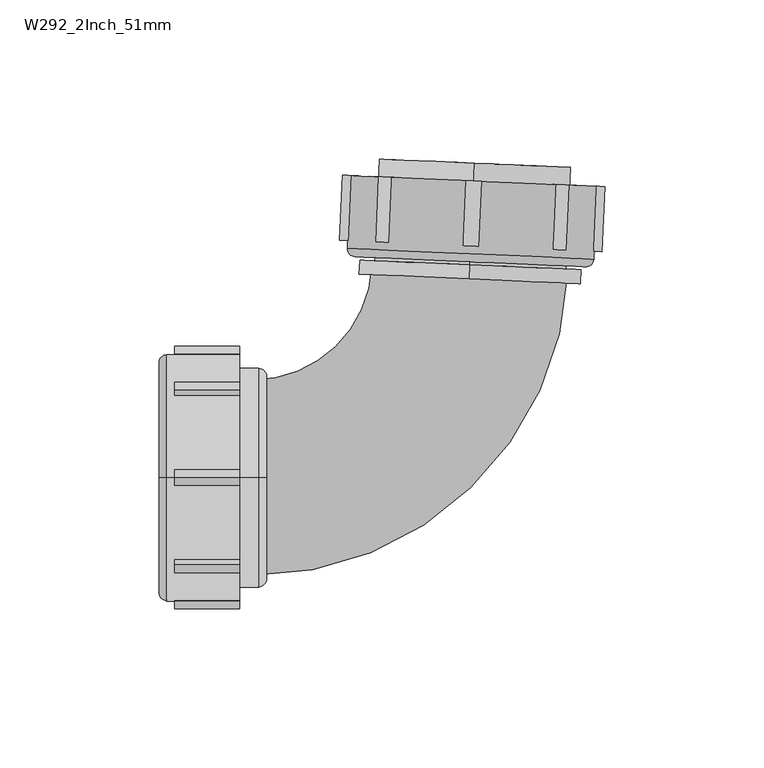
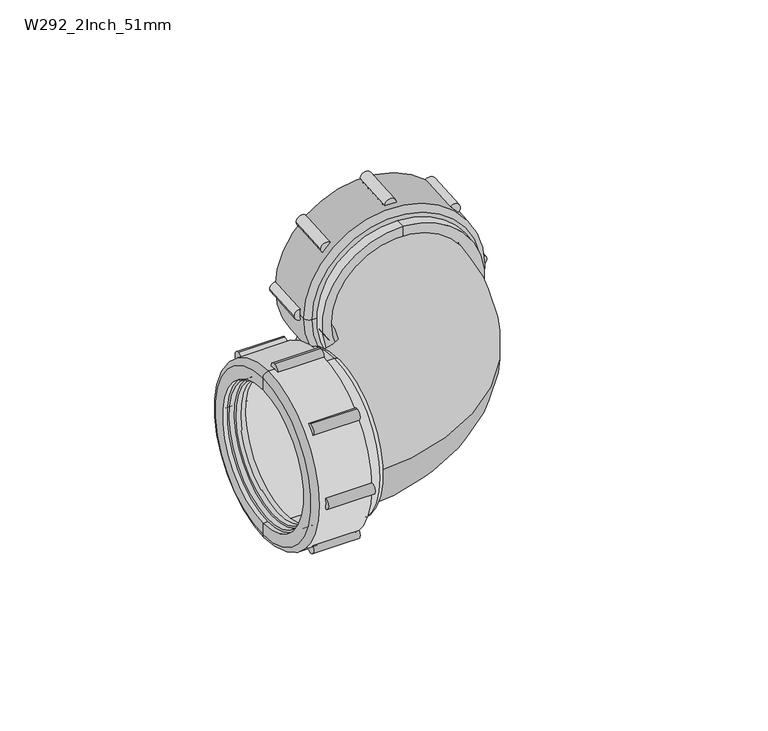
"""IFC4 building model written with IfcOpenShell, lengths in millimetres: pipe fitting geometry, Durapipe_PipeFitting_VulcatheneMechanical_92.5LooseNutSweepBend_W29 : W292_2Inch_51mm."""

from ifc_helpers import new_model, si_unit, point, frame, frame_2d, origin, place, context, project, spatial, polyline, circle_curve, ellipse_curve, trimmed, segment, composite_curve, outline, extrude, source, transform, mapped, element, save
from ifc_brep_helpers import plane_surface, cylinder_surface, revolved_surface, advanced_brep


def w292_2inch_51mm_7eba3630(model_context):
    return source(origin(), model_context, "Body", "SolidModel", [
        advanced_brep(
        [(-19.6834015, 72.7860232, 22.839549), (-18.1292472, 72.7181674, 21.2839141), (24.3980659, 70.8613848, -21.2839141), (25.9522202, 70.793529, -22.839549), (-18.9446293, 78.3591028, 22.3445743), (25.7019851, 76.4097895, -22.3445743), (-18.4597019, 79.7392642, 21.9203102), (-18.5207691, 78.3405966, 21.9203102), (25.2781248, 76.4282956, -21.9203102), (25.339192, 77.8269631, -21.9203102), (24.3501847, 77.8701441, -20.9303607), (-17.4706946, 79.6960832, 20.9303607), (24.2498601, 75.5723332, -20.9303607), (-17.5710192, 77.3982723, 20.9303607), (23.9672866, 75.5846707, -20.647518), (-17.2884457, 77.3859348, 20.647518), (-18.0201988, 75.2157879, 21.2839141), (-17.3844084, 75.1880287, 20.647518), (23.8713239, 73.3867646, -20.647518), (24.5071143, 73.3590054, -21.2839141)],
        [
            (0, 1),
            (1, 2, circle_curve(frame((3.1344093, 71.7897761, 0.0), z_axis=(0.04361938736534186, 0.9990482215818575, 0.0), x_axis=(0.7064337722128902, -0.030843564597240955, -0.7071067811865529)), 30.1)),
            (2, 3),
            (3, 0, circle_curve(frame((3.1344093, 71.7897761, 0.0), z_axis=(-0.04361938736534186, -0.9990482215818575, 0.0), x_axis=(0.7064337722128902, -0.030843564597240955, -0.7071067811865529)), 32.3)),
            (2, 1, circle_curve(frame((3.1344093, 71.7897761, 0.0), z_axis=(0.04361938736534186, 0.9990482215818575, 0.0), x_axis=(0.7064337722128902, -0.030843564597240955, -0.7071067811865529)), 30.1)),
            (0, 3, circle_curve(frame((3.1344093, 71.7897761, 0.0), z_axis=(-0.04361938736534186, -0.9990482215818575, 0.0), x_axis=(0.7064337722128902, -0.030843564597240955, -0.7071067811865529)), 32.3)),
            (4, 0),
            (3, 5),
            (5, 4, circle_curve(frame((3.3786779, 77.3844461, 0.0), z_axis=(-0.04361938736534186, -0.9990482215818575, 0.0), x_axis=(0.7064337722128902, -0.030843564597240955, -0.7071067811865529)), 31.6)),
            (4, 5, circle_curve(frame((3.3786779, 77.3844461, 0.0), z_axis=(-0.04361938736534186, -0.9990482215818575, 0.0), x_axis=(0.7064337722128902, -0.030843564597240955, -0.7071067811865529)), 31.6)),
            (6, 7),
            (7, 8, circle_curve(frame((3.3786779, 77.3844461, 0.0), z_axis=(0.04361938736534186, 0.9990482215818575, 0.0), x_axis=(0.7064337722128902, -0.030843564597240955, -0.7071067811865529)), 31.0)),
            (8, 9),
            (9, 6, circle_curve(frame((3.439745, 78.7831137, 0.0), z_axis=(-0.04361938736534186, -0.9990482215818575, 0.0), x_axis=(0.7064337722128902, -0.030843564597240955, -0.7071067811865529)), 31.0)),
            (8, 7, circle_curve(frame((3.3786779, 77.3844461, 0.0), z_axis=(0.04361938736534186, 0.9990482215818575, 0.0), x_axis=(0.7064337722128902, -0.030843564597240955, -0.7071067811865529)), 31.0)),
            (6, 9, circle_curve(frame((3.439745, 78.7831137, 0.0), z_axis=(-0.04361938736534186, -0.9990482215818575, 0.0), x_axis=(0.7064337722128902, -0.030843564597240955, -0.7071067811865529)), 31.0)),
            (9, 10),
            (10, 11, circle_curve(frame((3.439745, 78.7831137, 0.0), z_axis=(-0.04361938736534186, -0.9990482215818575, 0.0), x_axis=(0.7064337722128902, -0.030843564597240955, -0.7071067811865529)), 29.6)),
            (11, 6),
            (11, 10, circle_curve(frame((3.439745, 78.7831137, 0.0), z_axis=(-0.04361938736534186, -0.9990482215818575, 0.0), x_axis=(0.7064337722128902, -0.030843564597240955, -0.7071067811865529)), 29.6)),
            (10, 12),
            (12, 13, circle_curve(frame((3.3394204, 76.4853027, 0.0), z_axis=(-0.04361938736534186, -0.9990482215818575, 0.0), x_axis=(0.7064337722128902, -0.030843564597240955, -0.7071067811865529)), 29.6)),
            (13, 11),
            (13, 12, circle_curve(frame((3.3394204, 76.4853027, 0.0), z_axis=(-0.04361938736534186, -0.9990482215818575, 0.0), x_axis=(0.7064337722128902, -0.030843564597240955, -0.7071067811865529)), 29.6)),
            (12, 14),
            (14, 15, circle_curve(frame((3.3394204, 76.4853027, 0.0), z_axis=(-0.04361938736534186, -0.9990482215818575, 0.0), x_axis=(0.7064337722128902, -0.030843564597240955, -0.7071067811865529)), 29.2)),
            (15, 13),
            (15, 14, circle_curve(frame((3.3394204, 76.4853027, 0.0), z_axis=(-0.04361938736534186, -0.9990482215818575, 0.0), x_axis=(0.7064337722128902, -0.030843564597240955, -0.7071067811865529)), 29.2)),
            (16, 17),
            (17, 18, circle_curve(frame((3.2434578, 74.2873967, 0.0), z_axis=(0.04361938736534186, 0.9990482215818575, 0.0), x_axis=(0.7064337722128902, -0.030843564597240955, -0.7071067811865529)), 29.2)),
            (18, 19),
            (19, 16, circle_curve(frame((3.2434578, 74.2873967, 0.0), z_axis=(-0.04361938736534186, -0.9990482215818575, 0.0), x_axis=(0.7064337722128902, -0.030843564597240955, -0.7071067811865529)), 30.1)),
            (18, 17, circle_curve(frame((3.2434578, 74.2873967, 0.0), z_axis=(0.04361938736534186, 0.9990482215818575, 0.0), x_axis=(0.7064337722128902, -0.030843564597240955, -0.7071067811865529)), 29.2)),
            (16, 19, circle_curve(frame((3.2434578, 74.2873967, 0.0), z_axis=(-0.04361938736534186, -0.9990482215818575, 0.0), x_axis=(0.7064337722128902, -0.030843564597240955, -0.7071067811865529)), 30.1)),
            (1, 16),
            (19, 2),
            (14, 18),
            (17, 15),
            (5, 8),
            (7, 4),
        ],
        [
            plane_surface(frame((3.1344093, 71.7897761, 0.0), z_axis=(-0.04361938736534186, -0.9990482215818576, 0.0), x_axis=(0.7064337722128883, -0.030843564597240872, -0.707106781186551))),
            revolved_surface(polyline([(25.9522202, 70.793529, -22.839549), (25.7019851, 76.4097895, -22.3445743)]), (2.9163124, 66.794535, 0.0), (0.04361938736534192, 0.9990482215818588, 0.0)),
            cylinder_surface(frame((3.5300658, 80.8517986, 0.0), z_axis=(0.04361938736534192, 0.9990482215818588, 0.0), x_axis=(0.7064337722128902, -0.030843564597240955, -0.7071067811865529)), 31.0),
            plane_surface(frame((3.439745, 78.7831137, 0.0), z_axis=(0.04361938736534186, 0.9990482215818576, 0.0), x_axis=(0.7064337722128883, -0.030843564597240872, -0.707106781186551))),
            revolved_surface(polyline([(24.35018473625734, 77.87014418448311, -20.930360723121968), (24.249860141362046, 75.57233318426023, -20.930360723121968)]), (3.5921072, 82.27278, 0.0), (0.04361938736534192, 0.9990482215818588, 0.0)),
            plane_surface(frame((3.3394204, 76.4853027, 0.0), z_axis=(0.04361938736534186, 0.9990482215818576, 0.0), x_axis=(0.7064337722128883, -0.030843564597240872, -0.707106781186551))),
            plane_surface(frame((3.2434578, 74.2873967, 0.0), z_axis=(-0.04361938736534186, -0.9990482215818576, 0.0), x_axis=(0.7064337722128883, -0.030843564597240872, -0.707106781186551))),
            revolved_surface(polyline([(24.507114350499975, 73.35900540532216, -21.283914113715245), (24.39806587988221, 70.86138480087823, -21.283914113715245)]), (2.9163124, 66.794535, 0.0), (0.04361938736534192, 0.9990482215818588, 0.0)),
            revolved_surface(polyline([(23.96728662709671, 75.58467069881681, -20.647518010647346), (23.871323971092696, 73.3867645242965, -20.647518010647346)]), (3.066093, 70.2250743, 0.0), (0.04361938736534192, 0.9990482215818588, 0.0)),
            plane_surface(frame((3.3786779, 77.3844461, 0.0), z_axis=(0.04361938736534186, 0.9990482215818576, 0.0), x_axis=(0.7064337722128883, -0.030843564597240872, -0.707106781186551))),
        ],
        [
            (0, [[1, 2, 3, 4]]),
            (0, [[5, -1, 6, -3]]),
            (1, [[7, -4, 8, 9]]),
            (1, [[-8, -6, -7, 10]]),
            (2, [[11, 12, 13, 14]]),
            (2, [[15, -11, 16, -13]]),
            (3, [[17, 18, 19, -14]]),
            (3, [[-19, 20, -17, -16]]),
            (4, [[-18, 21, 22, 23]]),
            (4, [[24, -21, -20, -23]]),
            (5, [[25, 26, 27, -22]]),
            (5, [[-27, 28, -25, -24]]),
            (6, [[29, 30, 31, 32]]),
            (6, [[-31, 33, -29, 34]]),
            (7, [[35, -32, 36, -2]]),
            (7, [[-36, -34, -35, -5]]),
            (8, [[-26, 37, -30, 38]]),
            (8, [[-33, -37, -28, -38]]),
            (9, [[39, -12, 40, -9]]),
            (9, [[-40, -15, -39, -10]]),
        ],
    ),
        advanced_brep(
        [(-34.6908449, 94.9617451, 0.0), (-35.6897288, 72.0835408, 0.0), (41.8364132, 68.6986764, 0.0), (42.8352971, 91.5768806, 0.0), (-28.8963652, 94.7087526, 0.0), (37.0408175, 91.8298731, 0.0), (-33.3011567, 69.4768718, 0.0), (-28.0062012, 69.245689, 0.0), (33.9347886, 66.541287, 0.0), (39.2297441, 66.3101043, 0.0), (-29.834182, 73.2292159, 0.0), (36.1030006, 70.3503363, 0.0), (-27.8360856, 73.1419771, 0.0), (34.1049042, 70.4375751, 0.0)],
        [
            (0, 1),
            (1, 2, circle_curve(frame((3.0733422, 70.3911086, 0.0), z_axis=(0.0436193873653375, 0.9990482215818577, 0.0), x_axis=(0.9990482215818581, -0.04361938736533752, 0.0)), 38.8)),
            (2, 3),
            (3, 0, circle_curve(frame((4.0722261, 93.2693129, 0.0), z_axis=(-0.0436193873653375, -0.9990482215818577, 0.0), x_axis=(0.9990482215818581, -0.04361938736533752, 0.0)), 38.8)),
            (2, 1, circle_curve(frame((3.0733422, 70.3911086, 0.0), z_axis=(0.0436193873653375, 0.9990482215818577, 0.0), x_axis=(0.9990482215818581, -0.04361938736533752, 0.0)), 38.8)),
            (0, 3, circle_curve(frame((4.0722261, 93.2693129, 0.0), z_axis=(-0.0436193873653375, -0.9990482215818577, 0.0), x_axis=(0.9990482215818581, -0.04361938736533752, 0.0)), 38.8)),
            (4, 0),
            (3, 5),
            (5, 4, circle_curve(frame((4.0722261, 93.2693129, 0.0), z_axis=(-0.0436193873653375, -0.9990482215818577, 0.0), x_axis=(0.9990482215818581, -0.04361938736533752, 0.0)), 33.0)),
            (4, 5, circle_curve(frame((4.0722261, 93.2693129, 0.0), z_axis=(-0.0436193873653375, -0.9990482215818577, 0.0), x_axis=(0.9990482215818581, -0.04361938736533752, 0.0)), 33.0)),
            (6, 7),
            (7, 8, circle_curve(frame((2.9642937, 67.893488, 0.0), z_axis=(0.0436193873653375, 0.9990482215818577, 0.0), x_axis=(0.9990482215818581, -0.04361938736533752, 0.0)), 31.0)),
            (8, 9),
            (9, 6, circle_curve(frame((2.9642937, 67.893488, 0.0), z_axis=(-0.0436193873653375, -0.9990482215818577, 0.0), x_axis=(0.9990482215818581, -0.04361938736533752, 0.0)), 36.3)),
            (8, 7, circle_curve(frame((2.9642937, 67.893488, 0.0), z_axis=(0.0436193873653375, 0.9990482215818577, 0.0), x_axis=(0.9990482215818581, -0.04361938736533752, 0.0)), 31.0)),
            (6, 9, circle_curve(frame((2.9642937, 67.893488, 0.0), z_axis=(-0.0436193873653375, -0.9990482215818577, 0.0), x_axis=(0.9990482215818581, -0.04361938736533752, 0.0)), 36.3)),
            (1, 6, circle_curve(frame((-33.1921083, 71.9744924, 0.0), z_axis=(0.0, 0.0, 1.0000000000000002), x_axis=(-0.043619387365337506, -0.9990482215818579, 0.0)), 2.5)),
            (9, 2, circle_curve(frame((39.3387926, 68.8077248, 0.0), z_axis=(0.0, 0.0, 1.0000000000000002), x_axis=(-0.043619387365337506, -0.9990482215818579, 0.0)), 2.5)),
            (10, 4),
            (5, 11),
            (11, 10, circle_curve(frame((3.1344093, 71.7897761, 0.0), z_axis=(-0.0436193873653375, -0.9990482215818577, 0.0), x_axis=(0.9990482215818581, -0.04361938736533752, 0.0)), 33.0)),
            (10, 11, circle_curve(frame((3.1344093, 71.7897761, 0.0), z_axis=(-0.0436193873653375, -0.9990482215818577, 0.0), x_axis=(0.9990482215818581, -0.04361938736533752, 0.0)), 33.0)),
            (12, 10),
            (11, 13),
            (13, 12, circle_curve(frame((3.1344093, 71.7897761, 0.0), z_axis=(-0.0436193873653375, -0.9990482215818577, 0.0), x_axis=(0.9990482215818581, -0.04361938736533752, 0.0)), 31.0)),
            (12, 13, circle_curve(frame((3.1344093, 71.7897761, 0.0), z_axis=(-0.0436193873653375, -0.9990482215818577, 0.0), x_axis=(0.9990482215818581, -0.04361938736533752, 0.0)), 31.0)),
            (7, 12),
            (13, 8),
        ],
        [
            cylinder_surface(frame((-65.1169254, -1491.4227929, 0.0), z_axis=(0.043619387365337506, 0.9990482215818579, 0.0), x_axis=(0.9990482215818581, -0.04361938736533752, 0.0)), 38.8),
            plane_surface(frame((4.0722261, 93.2693129, 0.0), z_axis=(0.0436193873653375, 0.9990482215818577, 0.0), x_axis=(0.9990482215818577, -0.0436193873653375, 0.0))),
            plane_surface(frame((2.9642937, 67.893488, 0.0), z_axis=(-0.0436193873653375, -0.9990482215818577, 0.0), x_axis=(0.9990482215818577, -0.0436193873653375, 0.0))),
            revolved_surface(trimmed(ellipse_curve(frame((39.3387926, 68.8077248, 0.0), z_axis=(0.0, 0.0, 1.0000000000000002), x_axis=(-0.043619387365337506, -0.9990482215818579, 0.0)), 2.5, 2.5), [point((39.2297441, 66.3101043, 0.0))], [point((41.8364132, 68.6986764, 0.0))], True, "CARTESIAN"), (-65.1169254, -1491.4227929, 0.0), (0.043619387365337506, 0.9990482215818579, 0.0)),
            revolved_surface(polyline([(37.040817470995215, 91.8298731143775, 0.0), (36.103000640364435, 70.35033629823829, 0.0)]), (-65.1169254, -1491.4227929, 0.0), (0.043619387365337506, 0.9990482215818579, 0.0)),
            plane_surface(frame((3.1344093, 71.7897761, 0.0), z_axis=(0.0436193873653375, 0.9990482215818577, 0.0), x_axis=(0.9990482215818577, -0.0436193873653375, 0.0))),
            revolved_surface(polyline([(34.10490419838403, 70.43757510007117, 0.0), (33.93478858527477, 66.54128698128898, 0.0)]), (-65.1169254, -1491.4227929, 0.0), (0.043619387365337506, 0.9990482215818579, 0.0)),
        ],
        [
            (0, [[1, 2, 3, 4]]),
            (0, [[-3, 5, -1, 6]]),
            (1, [[7, -4, 8, 9]]),
            (1, [[-8, -6, -7, 10]]),
            (2, [[11, 12, 13, 14]]),
            (2, [[-13, 15, -11, 16]]),
            (3, [[17, -14, 18, -2]]),
            (3, [[-18, -16, -17, -5]]),
            (4, [[19, -9, 20, 21]]),
            (4, [[-20, -10, -19, 22]]),
            (5, [[23, -21, 24, 25]]),
            (5, [[-24, -22, -23, 26]]),
            (6, [[27, -25, 28, -12]]),
            (6, [[-28, -26, -27, -15]]),
        ],
    ),
        extrude(outline(composite_curve([segment(trimmed(circle_curve(frame_2d((0.0, 2.5)), 2.5), [point((0.0, 5.0))], [point((0.0, 0.0))], False, "CARTESIAN"), True, "CONTINUOUS"), segment(trimmed(circle_curve(frame_2d((0.0, 2.5)), 2.5), [point((0.0, 0.0))], [point((0.0, 5.0))], False, "CARTESIAN"), True, "CONTINUOUS")], self_intersect=False)), frame((5.6800112, 72.7796807, -38.8), z_axis=(0.0436193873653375, 0.9990482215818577, 0.0), x_axis=(0.0, 0.0, -1.0)), (0.0, 0.0, 1.0), 20.4),
        extrude(outline(composite_curve([segment(trimmed(circle_curve(frame_2d((-11.3642569, -24.9357431)), 2.5), [point((-11.3642569, -22.4357431))], [point((-11.3642569, -27.4357431))], False, "CARTESIAN"), True, "CONTINUOUS"), segment(trimmed(circle_curve(frame_2d((-11.3642569, -24.9357431)), 2.5), [point((-11.3642569, -27.4357431))], [point((-11.3642569, -22.4357431))], False, "CARTESIAN"), True, "CONTINUOUS")], self_intersect=False)), frame((5.6800112, 72.7796807, -38.8), z_axis=(0.0436193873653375, 0.9990482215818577, 0.0), x_axis=(0.0, 0.0, -1.0)), (0.0, 0.0, 1.0), 20.4),
        extrude(outline(composite_curve([segment(trimmed(circle_curve(frame_2d((-38.8, -36.3)), 2.5), [point((-38.8, -33.8))], [point((-38.8, -38.8))], False, "CARTESIAN"), True, "CONTINUOUS"), segment(trimmed(circle_curve(frame_2d((-38.8, -36.3)), 2.5), [point((-38.8, -38.8))], [point((-38.8, -33.8))], False, "CARTESIAN"), True, "CONTINUOUS")], self_intersect=False)), frame((5.6800112, 72.7796807, -38.8), z_axis=(0.0436193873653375, 0.9990482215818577, 0.0), x_axis=(0.0, 0.0, -1.0)), (0.0, 0.0, 1.0), 20.4),
        extrude(outline(composite_curve([segment(trimmed(circle_curve(frame_2d((-66.2357431, -24.9357431)), 2.5), [point((-66.2357431, -22.4357431))], [point((-66.2357431, -27.4357431))], False, "CARTESIAN"), True, "CONTINUOUS"), segment(trimmed(circle_curve(frame_2d((-66.2357431, -24.9357431)), 2.5), [point((-66.2357431, -27.4357431))], [point((-66.2357431, -22.4357431))], False, "CARTESIAN"), True, "CONTINUOUS")], self_intersect=False)), frame((5.6800112, 72.7796807, -38.8), z_axis=(0.0436193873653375, 0.9990482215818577, 0.0), x_axis=(0.0, 0.0, -1.0)), (0.0, 0.0, 1.0), 20.4),
        extrude(outline(composite_curve([segment(trimmed(circle_curve(frame_2d((-77.6, 2.5)), 2.5), [point((-77.6, 5.0))], [point((-77.6, 0.0))], False, "CARTESIAN"), True, "CONTINUOUS"), segment(trimmed(circle_curve(frame_2d((-77.6, 2.5)), 2.5), [point((-77.6, 0.0))], [point((-77.6, 5.0))], False, "CARTESIAN"), True, "CONTINUOUS")], self_intersect=False)), frame((5.6800112, 72.7796807, -38.8), z_axis=(0.0436193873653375, 0.9990482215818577, 0.0), x_axis=(0.0, 0.0, -1.0)), (0.0, 0.0, 1.0), 20.4),
        extrude(outline(composite_curve([segment(trimmed(circle_curve(frame_2d((-66.2357431, 29.9357431)), 2.5), [point((-66.2357431, 32.4357431))], [point((-66.2357431, 27.4357431))], False, "CARTESIAN"), True, "CONTINUOUS"), segment(trimmed(circle_curve(frame_2d((-66.2357431, 29.9357431)), 2.5), [point((-66.2357431, 27.4357431))], [point((-66.2357431, 32.4357431))], False, "CARTESIAN"), True, "CONTINUOUS")], self_intersect=False)), frame((5.6800112, 72.7796807, -38.8), z_axis=(0.0436193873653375, 0.9990482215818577, 0.0), x_axis=(0.0, 0.0, -1.0)), (0.0, 0.0, 1.0), 20.4),
        extrude(outline(composite_curve([segment(trimmed(circle_curve(frame_2d((-38.8, 41.3)), 2.5), [point((-38.8, 43.8))], [point((-38.8, 38.8))], False, "CARTESIAN"), True, "CONTINUOUS"), segment(trimmed(circle_curve(frame_2d((-38.8, 41.3)), 2.5), [point((-38.8, 38.8))], [point((-38.8, 43.8))], False, "CARTESIAN"), True, "CONTINUOUS")], self_intersect=False)), frame((5.6800112, 72.7796807, -38.8), z_axis=(0.0436193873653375, 0.9990482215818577, 0.0), x_axis=(0.0, 0.0, -1.0)), (0.0, 0.0, 1.0), 20.4),
        extrude(outline(composite_curve([segment(trimmed(circle_curve(frame_2d((-11.3642569, 29.9357431)), 2.5), [point((-11.3642569, 32.4357431))], [point((-11.3642569, 27.4357431))], False, "CARTESIAN"), True, "CONTINUOUS"), segment(trimmed(circle_curve(frame_2d((-11.3642569, 29.9357431)), 2.5), [point((-11.3642569, 27.4357431))], [point((-11.3642569, 32.4357431))], False, "CARTESIAN"), True, "CONTINUOUS")], self_intersect=False)), frame((5.6800112, 72.7796807, -38.8), z_axis=(0.0436193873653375, 0.9990482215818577, 0.0), x_axis=(0.0, 0.0, -1.0)), (0.0, 0.0, 1.0), 20.4),
        advanced_brep(
        [(4.3164947, 98.8639829, 30.15), (4.3164947, 98.8639829, -30.15), (4.3164947, 98.8639829, -26.2), (4.3164947, 98.8639829, 26.2), (2.9206743, 66.8944398, 30.15), (2.9206743, 66.8944398, -30.15), (2.9206743, 66.8944398, 34.9), (2.9206743, 66.8944398, -34.9), (2.728749, 62.4986276, 34.9), (2.728749, 62.4986276, -34.9), (2.728749, 62.4986276, 26.2), (2.728749, 62.4986276, -26.2)],
        [
            (0, 1, circle_curve(frame((4.3164947, 98.8639829, 0.0), z_axis=(0.04361938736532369, 0.9990482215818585, 0.0), x_axis=(0.0, 0.0, -1.0)), 30.15)),
            (1, 2),
            (2, 3, circle_curve(frame((4.3164947, 98.8639829, 0.0), z_axis=(-0.04361938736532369, -0.9990482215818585, 0.0), x_axis=(0.0, 0.0, -1.0)), 26.2)),
            (3, 0),
            (1, 0, circle_curve(frame((4.3164947, 98.8639829, 0.0), z_axis=(0.04361938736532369, 0.9990482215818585, 0.0), x_axis=(0.0, 0.0, -1.0)), 30.15)),
            (3, 2, circle_curve(frame((4.3164947, 98.8639829, 0.0), z_axis=(-0.04361938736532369, -0.9990482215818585, 0.0), x_axis=(0.0, 0.0, -1.0)), 26.2)),
            (4, 5, circle_curve(frame((2.9206743, 66.8944398, 0.0), z_axis=(0.04361938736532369, 0.9990482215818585, 0.0), x_axis=(0.0, 0.0, -1.0)), 30.15)),
            (5, 1),
            (0, 4),
            (5, 4, circle_curve(frame((2.9206743, 66.8944398, 0.0), z_axis=(0.04361938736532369, 0.9990482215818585, 0.0), x_axis=(0.0, 0.0, -1.0)), 30.15)),
            (6, 7, circle_curve(frame((2.9206743, 66.8944398, 0.0), z_axis=(0.04361938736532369, 0.9990482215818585, 0.0), x_axis=(0.0, 0.0, -1.0)), 34.9)),
            (7, 5),
            (4, 6),
            (7, 6, circle_curve(frame((2.9206743, 66.8944398, 0.0), z_axis=(0.04361938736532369, 0.9990482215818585, 0.0), x_axis=(0.0, 0.0, -1.0)), 34.9)),
            (8, 9, circle_curve(frame((2.728749, 62.4986276, 0.0), z_axis=(0.04361938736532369, 0.9990482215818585, 0.0), x_axis=(0.0, 0.0, -1.0)), 34.9)),
            (9, 7),
            (6, 8),
            (9, 8, circle_curve(frame((2.728749, 62.4986276, 0.0), z_axis=(0.04361938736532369, 0.9990482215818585, 0.0), x_axis=(0.0, 0.0, -1.0)), 34.9)),
            (10, 11, circle_curve(frame((2.728749, 62.4986276, 0.0), z_axis=(0.04361938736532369, 0.9990482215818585, 0.0), x_axis=(0.0, 0.0, -1.0)), 26.2)),
            (11, 9),
            (8, 10),
            (11, 10, circle_curve(frame((2.728749, 62.4986276, 0.0), z_axis=(0.04361938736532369, 0.9990482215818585, 0.0), x_axis=(0.0, 0.0, -1.0)), 26.2)),
            (2, 11),
            (10, 3),
        ],
        [
            plane_surface(frame((4.3164947, 98.8639829, 0.0), z_axis=(0.04361938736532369, 0.9990482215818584, 0.0), x_axis=(0.0, 0.0, -1.0))),
            cylinder_surface(frame((4.7526886, 108.8544651, 0.0), z_axis=(-0.043619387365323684, -0.9990482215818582, 0.0), x_axis=(0.0, 0.0, -1.0)), 30.15),
            plane_surface(frame((2.9206743, 66.8944398, 0.0), z_axis=(0.04361938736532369, 0.9990482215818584, 0.0), x_axis=(0.0, 0.0, -1.0))),
            cylinder_surface(frame((4.7526886, 108.8544651, 0.0), z_axis=(-0.043619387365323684, -0.9990482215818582, 0.0), x_axis=(0.0, 0.0, -1.0)), 34.9),
            plane_surface(frame((2.728749, 62.4986276, 0.0), z_axis=(-0.04361938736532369, -0.9990482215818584, 0.0), x_axis=(0.0, 0.0, -1.0))),
            revolved_surface(polyline([(2.728749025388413, 62.49862759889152, -26.2), (4.316494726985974, 98.86398289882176, -26.2)]), (4.7526886, 108.8544651, 0.0), (-0.043619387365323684, -0.9990482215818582, 0.0)),
        ],
        [
            (0, [[1, 2, 3, 4]]),
            (0, [[5, -4, 6, -2]]),
            (1, [[7, 8, -1, 9]]),
            (1, [[10, -9, -5, -8]]),
            (2, [[11, 12, -7, 13]]),
            (2, [[14, -13, -10, -12]]),
            (3, [[15, 16, -11, 17]]),
            (3, [[18, -17, -14, -16]]),
            (4, [[19, 20, -15, 21]]),
            (4, [[22, -21, -18, -20]]),
            (5, [[-3, 23, -19, 24]]),
            (5, [[-6, -24, -22, -23]]),
        ],
    ),
        advanced_brep(
        [(-92.683026, -22.839549, -22.839549), (-92.683026, 22.839549, 22.839549), (-92.683026, 21.2839141, 21.2839141), (-92.683026, -21.2839141, -21.2839141), (-87.083026, -22.3445743, -22.3445743), (-87.083026, 22.3445743, 22.3445743), (-85.683026, -21.9203102, -21.9203102), (-85.683026, 21.9203102, 21.9203102), (-87.083026, 21.9203102, 21.9203102), (-87.083026, -21.9203102, -21.9203102), (-85.683026, -20.9303607, -20.9303607), (-85.683026, 20.9303607, 20.9303607), (-87.983026, -20.9303607, -20.9303607), (-87.983026, 20.9303607, 20.9303607), (-87.983026, -20.647518, -20.647518), (-87.983026, 20.647518, 20.647518), (-90.183026, -21.2839141, -21.2839141), (-90.183026, 21.2839141, 21.2839141), (-90.183026, 20.647518, 20.647518), (-90.183026, -20.647518, -20.647518)],
        [
            (0, 1, circle_curve(frame((-92.683026, 0.0, 0.0), z_axis=(-1.0, 0.0, 0.0), x_axis=(0.0, 0.7071067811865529, 0.7071067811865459)), 32.3)),
            (1, 2),
            (2, 3, circle_curve(frame((-92.683026, 0.0, 0.0), z_axis=(1.0, 0.0, 0.0), x_axis=(0.0, 0.7071067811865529, 0.7071067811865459)), 30.1)),
            (3, 0),
            (1, 0, circle_curve(frame((-92.683026, 0.0, 0.0), z_axis=(-1.0, 0.0, 0.0), x_axis=(0.0, 0.7071067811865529, 0.7071067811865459)), 32.3)),
            (3, 2, circle_curve(frame((-92.683026, 0.0, 0.0), z_axis=(1.0, 0.0, 0.0), x_axis=(0.0, 0.7071067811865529, 0.7071067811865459)), 30.1)),
            (4, 5, circle_curve(frame((-87.083026, 0.0, 0.0), z_axis=(-1.0, 0.0, 0.0), x_axis=(0.0, 0.7071067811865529, 0.7071067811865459)), 31.6)),
            (5, 1),
            (0, 4),
            (5, 4, circle_curve(frame((-87.083026, 0.0, 0.0), z_axis=(-1.0, 0.0, 0.0), x_axis=(0.0, 0.7071067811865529, 0.7071067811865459)), 31.6)),
            (6, 7, circle_curve(frame((-85.683026, 0.0, 0.0), z_axis=(-1.0, 0.0, 0.0), x_axis=(0.0, 0.7071067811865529, 0.7071067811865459)), 31.0)),
            (7, 8),
            (8, 9, circle_curve(frame((-87.083026, 0.0, 0.0), z_axis=(1.0, 0.0, 0.0), x_axis=(0.0, 0.7071067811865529, 0.7071067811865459)), 31.0)),
            (9, 6),
            (7, 6, circle_curve(frame((-85.683026, 0.0, 0.0), z_axis=(-1.0, 0.0, 0.0), x_axis=(0.0, 0.7071067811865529, 0.7071067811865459)), 31.0)),
            (9, 8, circle_curve(frame((-87.083026, 0.0, 0.0), z_axis=(1.0, 0.0, 0.0), x_axis=(0.0, 0.7071067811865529, 0.7071067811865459)), 31.0)),
            (6, 10),
            (10, 11, circle_curve(frame((-85.683026, 0.0, 0.0), z_axis=(-1.0, 0.0, 0.0), x_axis=(0.0, 0.7071067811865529, 0.7071067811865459)), 29.6)),
            (11, 7),
            (11, 10, circle_curve(frame((-85.683026, 0.0, 0.0), z_axis=(-1.0, 0.0, 0.0), x_axis=(0.0, 0.7071067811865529, 0.7071067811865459)), 29.6)),
            (10, 12),
            (12, 13, circle_curve(frame((-87.983026, 0.0, 0.0), z_axis=(-1.0, 0.0, 0.0), x_axis=(0.0, 0.7071067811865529, 0.7071067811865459)), 29.6)),
            (13, 11),
            (13, 12, circle_curve(frame((-87.983026, 0.0, 0.0), z_axis=(-1.0, 0.0, 0.0), x_axis=(0.0, 0.7071067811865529, 0.7071067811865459)), 29.6)),
            (12, 14),
            (14, 15, circle_curve(frame((-87.983026, 0.0, 0.0), z_axis=(-1.0, 0.0, 0.0), x_axis=(0.0, 0.7071067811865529, 0.7071067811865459)), 29.2)),
            (15, 13),
            (15, 14, circle_curve(frame((-87.983026, 0.0, 0.0), z_axis=(-1.0, 0.0, 0.0), x_axis=(0.0, 0.7071067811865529, 0.7071067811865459)), 29.2)),
            (16, 17, circle_curve(frame((-90.183026, 0.0, 0.0), z_axis=(-1.0, 0.0, 0.0), x_axis=(0.0, 0.7071067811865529, 0.7071067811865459)), 30.1)),
            (17, 18),
            (18, 19, circle_curve(frame((-90.183026, 0.0, 0.0), z_axis=(1.0, 0.0, 0.0), x_axis=(0.0, 0.7071067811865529, 0.7071067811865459)), 29.2)),
            (19, 16),
            (17, 16, circle_curve(frame((-90.183026, 0.0, 0.0), z_axis=(-1.0, 0.0, 0.0), x_axis=(0.0, 0.7071067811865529, 0.7071067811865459)), 30.1)),
            (19, 18, circle_curve(frame((-90.183026, 0.0, 0.0), z_axis=(1.0, 0.0, 0.0), x_axis=(0.0, 0.7071067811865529, 0.7071067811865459)), 29.2)),
            (2, 17),
            (16, 3),
            (14, 19),
            (18, 15),
            (4, 9),
            (8, 5),
        ],
        [
            plane_surface(frame((-92.683026, 0.0, 0.0), z_axis=(-1.0, 0.0, 0.0), x_axis=(0.0, 0.707106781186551, 0.707106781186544))),
            revolved_surface(polyline([(-92.683026, 22.839549, 22.839549), (-87.083026, 22.3445743, 22.3445743)]), (-97.683026, 0.0, 0.0), (1.0000000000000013, 0.0, 0.0)),
            cylinder_surface(frame((-83.6123703, 0.0, 0.0), z_axis=(1.0000000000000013, 0.0, 0.0), x_axis=(0.0, 0.7071067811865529, 0.7071067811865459)), 31.0),
            plane_surface(frame((-85.683026, 0.0, 0.0), z_axis=(1.0, 0.0, 0.0), x_axis=(0.0, 0.707106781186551, 0.707106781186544))),
            revolved_surface(polyline([(-85.68302600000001, 20.930360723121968, 20.93036072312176), (-87.98302600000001, 20.930360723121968, 20.93036072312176)]), (-82.190035, 0.0, 0.0), (1.0000000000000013, 0.0, 0.0)),
            plane_surface(frame((-87.983026, 0.0, 0.0), z_axis=(1.0, 0.0, 0.0), x_axis=(0.0, 0.707106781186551, 0.707106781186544))),
            plane_surface(frame((-90.183026, 0.0, 0.0), z_axis=(-1.0, 0.0, 0.0), x_axis=(0.0, 0.707106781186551, 0.707106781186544))),
            revolved_surface(polyline([(-90.18302599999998, 21.283914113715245, 21.28391411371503), (-92.68302599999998, 21.283914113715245, 21.28391411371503)]), (-97.683026, 0.0, 0.0), (1.0000000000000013, 0.0, 0.0)),
            revolved_surface(polyline([(-87.98302599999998, 20.647518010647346, 20.64751801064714), (-90.18302599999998, 20.647518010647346, 20.64751801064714)]), (-94.2492184, 0.0, 0.0), (1.0000000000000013, 0.0, 0.0)),
            plane_surface(frame((-87.083026, 0.0, 0.0), z_axis=(1.0, 0.0, 0.0), x_axis=(0.0, 0.707106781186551, 0.707106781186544))),
        ],
        [
            (0, [[1, 2, 3, 4]]),
            (0, [[-2, 5, -4, 6]]),
            (1, [[7, 8, -1, 9]]),
            (1, [[10, -9, -5, -8]]),
            (2, [[11, 12, 13, 14]]),
            (2, [[-12, 15, -14, 16]]),
            (3, [[-11, 17, 18, 19]]),
            (3, [[-15, -19, 20, -17]]),
            (4, [[21, 22, 23, -18]]),
            (4, [[-21, -20, -23, 24]]),
            (5, [[-22, 25, 26, 27]]),
            (5, [[-24, -27, 28, -25]]),
            (6, [[29, 30, 31, 32]]),
            (6, [[33, -32, 34, -30]]),
            (7, [[-3, 35, -29, 36]]),
            (7, [[-6, -36, -33, -35]]),
            (8, [[37, -31, 38, -26]]),
            (8, [[-37, -28, -38, -34]]),
            (9, [[-7, 39, -13, 40]]),
            (9, [[-10, -40, -16, -39]]),
        ],
    ),
        advanced_brep(
        [(-69.583026, 0.0, -38.8), (-69.583026, 0.0, 38.8), (-92.483026, 0.0, 38.8), (-92.483026, 0.0, -38.8), (-69.583026, 0.0, -34.5), (-69.583026, 0.0, 34.5), (-94.983026, 0.0, -36.3), (-94.983026, 0.0, 36.3), (-94.983026, 0.0, 31.0), (-94.983026, 0.0, -31.0), (-92.683026, 0.0, -33.0), (-92.683026, 0.0, 33.0), (-65.383026, 0.0, 33.0), (-65.383026, 0.0, -33.0), (-92.683026, 0.0, -31.0), (-92.683026, 0.0, 31.0), (-63.583026, 0.0, -34.5), (-63.583026, 0.0, 34.5), (-61.083026, 0.0, -32.0), (-61.083026, 0.0, 32.0), (-61.083026, 0.0, 0.0), (-65.383026, 0.0, 0.0)],
        [
            (0, 1, circle_curve(frame((-69.583026, 0.0, 0.0), z_axis=(-1.0, 0.0, 0.0), x_axis=(0.0, 0.0, 1.0000000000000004)), 38.8)),
            (1, 2),
            (2, 3, circle_curve(frame((-92.483026, 0.0, 0.0), z_axis=(1.0, 0.0, 0.0), x_axis=(0.0, 0.0, 1.0000000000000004)), 38.8)),
            (3, 0),
            (1, 0, circle_curve(frame((-69.583026, 0.0, 0.0), z_axis=(-1.0, 0.0, 0.0), x_axis=(0.0, 0.0, 1.0000000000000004)), 38.8)),
            (3, 2, circle_curve(frame((-92.483026, 0.0, 0.0), z_axis=(1.0, 0.0, 0.0), x_axis=(0.0, 0.0, 1.0000000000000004)), 38.8)),
            (4, 5, circle_curve(frame((-69.583026, 0.0, 0.0), z_axis=(-1.0, 0.0, 0.0), x_axis=(0.0, 0.0, 1.0000000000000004)), 34.5)),
            (5, 1),
            (0, 4),
            (5, 4, circle_curve(frame((-69.583026, 0.0, 0.0), z_axis=(-1.0, 0.0, 0.0), x_axis=(0.0, 0.0, 1.0000000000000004)), 34.5)),
            (6, 7, circle_curve(frame((-94.983026, 0.0, 0.0), z_axis=(-1.0, 0.0, 0.0), x_axis=(0.0, 0.0, 1.0000000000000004)), 36.3)),
            (7, 8),
            (8, 9, circle_curve(frame((-94.983026, 0.0, 0.0), z_axis=(1.0, 0.0, 0.0), x_axis=(0.0, 0.0, 1.0000000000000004)), 31.0)),
            (9, 6),
            (7, 6, circle_curve(frame((-94.983026, 0.0, 0.0), z_axis=(-1.0, 0.0, 0.0), x_axis=(0.0, 0.0, 1.0000000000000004)), 36.3)),
            (9, 8, circle_curve(frame((-94.983026, 0.0, 0.0), z_axis=(1.0, 0.0, 0.0), x_axis=(0.0, 0.0, 1.0000000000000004)), 31.0)),
            (2, 7, circle_curve(frame((-92.483026, 0.0, 36.3), z_axis=(0.0, -1.0000000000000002, 0.0), x_axis=(-1.0000000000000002, 0.0, 0.0)), 2.5)),
            (6, 3, circle_curve(frame((-92.483026, 0.0, -36.3), z_axis=(0.0, -1.0000000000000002, 0.0), x_axis=(-1.0000000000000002, 0.0, 0.0)), 2.5)),
            (10, 11, circle_curve(frame((-92.683026, 0.0, 0.0), z_axis=(-1.0, 0.0, 0.0), x_axis=(0.0, 0.0, 1.0000000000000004)), 33.0)),
            (11, 12),
            (12, 13, circle_curve(frame((-65.383026, 0.0, 0.0), z_axis=(1.0, 0.0, 0.0), x_axis=(0.0, 0.0, 1.0000000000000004)), 33.0)),
            (13, 10),
            (11, 10, circle_curve(frame((-92.683026, 0.0, 0.0), z_axis=(-1.0, 0.0, 0.0), x_axis=(0.0, 0.0, 1.0000000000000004)), 33.0)),
            (13, 12, circle_curve(frame((-65.383026, 0.0, 0.0), z_axis=(1.0, 0.0, 0.0), x_axis=(0.0, 0.0, 1.0000000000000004)), 33.0)),
            (14, 15, circle_curve(frame((-92.683026, 0.0, 0.0), z_axis=(-1.0, 0.0, 0.0), x_axis=(0.0, 0.0, 1.0000000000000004)), 31.0)),
            (15, 11),
            (10, 14),
            (15, 14, circle_curve(frame((-92.683026, 0.0, 0.0), z_axis=(-1.0, 0.0, 0.0), x_axis=(0.0, 0.0, 1.0000000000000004)), 31.0)),
            (8, 15),
            (14, 9),
            (16, 17, circle_curve(frame((-63.583026, 0.0, 0.0), z_axis=(-1.0, 0.0, 0.0), x_axis=(0.0, 0.0, 1.0000000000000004)), 34.5)),
            (17, 5),
            (4, 16),
            (17, 16, circle_curve(frame((-63.583026, 0.0, 0.0), z_axis=(-1.0, 0.0, 0.0), x_axis=(0.0, 0.0, 1.0000000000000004)), 34.5)),
            (18, 19, circle_curve(frame((-61.083026, 0.0, 0.0), z_axis=(-1.0, 0.0, 0.0), x_axis=(0.0, 0.0, 1.0000000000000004)), 32.0)),
            (19, 17, circle_curve(frame((-63.583026, 0.0, 32.0), z_axis=(0.0, -1.0000000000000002, 0.0), x_axis=(-1.0000000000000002, 0.0, 0.0)), 2.5)),
            (16, 18, circle_curve(frame((-63.583026, 0.0, -32.0), z_axis=(0.0, -1.0000000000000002, 0.0), x_axis=(-1.0000000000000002, 0.0, 0.0)), 2.5)),
            (19, 18, circle_curve(frame((-61.083026, 0.0, 0.0), z_axis=(-1.0, 0.0, 0.0), x_axis=(0.0, 0.0, 1.0000000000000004)), 32.0)),
            (20, 19),
            (18, 20),
            (12, 21),
            (21, 13),
        ],
        [
            cylinder_surface(frame((-1655.7848444, 0.0, 0.0), z_axis=(1.0000000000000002, 0.0, 0.0), x_axis=(0.0, 0.0, 1.0000000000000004)), 38.8),
            plane_surface(frame((-69.583026, 0.0, 0.0), z_axis=(1.0, 0.0, 0.0), x_axis=(0.0, 0.0, 1.0))),
            plane_surface(frame((-94.983026, 0.0, 0.0), z_axis=(-1.0, 0.0, 0.0), x_axis=(0.0, 0.0, 1.0))),
            revolved_surface(trimmed(ellipse_curve(frame((-92.483026, 0.0, 36.3), z_axis=(0.0, 1.0000000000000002, 0.0), x_axis=(-1.0000000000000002, 0.0, 0.0)), 2.5, 2.5), [point((-94.983026, 0.0, 36.3))], [point((-92.483026, 0.0, 38.8))], True, "CARTESIAN"), (-1655.7848444, 0.0, 0.0), (1.0000000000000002, 0.0, 0.0)),
            revolved_surface(polyline([(-65.38302599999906, 0.0, 33.000000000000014), (-92.68302599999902, 0.0, 33.000000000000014)]), (-1655.7848444, 0.0, 0.0), (1.0000000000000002, 0.0, 0.0)),
            plane_surface(frame((-92.683026, 0.0, 0.0), z_axis=(1.0, 0.0, 0.0), x_axis=(0.0, 0.0, 1.0))),
            revolved_surface(polyline([(-92.68302599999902, 0.0, 31.000000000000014), (-94.98302599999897, 0.0, 31.000000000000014)]), (-1655.7848444, 0.0, 0.0), (1.0000000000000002, 0.0, 0.0)),
            cylinder_surface(frame((-1655.7848444, 0.0, 0.0), z_axis=(1.0000000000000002, 0.0, 0.0), x_axis=(0.0, 0.0, 1.0000000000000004)), 34.5),
            revolved_surface(trimmed(ellipse_curve(frame((-63.583026, 0.0, 32.0), z_axis=(0.0, 1.0000000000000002, 0.0), x_axis=(-1.0000000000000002, 0.0, 0.0)), 2.5, 2.5), [point((-63.583026, 0.0, 34.5))], [point((-61.083026, 0.0, 32.0))], True, "CARTESIAN"), (-1655.7848444, 0.0, 0.0), (1.0000000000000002, 0.0, 0.0)),
            plane_surface(frame((-61.083026, 0.0, 0.0), z_axis=(1.0, 0.0, 0.0), x_axis=(0.0, 0.0, 1.0))),
            plane_surface(frame((-65.383026, 0.0, 0.0), z_axis=(-1.0, 0.0, 0.0), x_axis=(0.0, 0.0, 1.0))),
        ],
        [
            (0, [[1, 2, 3, 4]]),
            (0, [[5, -4, 6, -2]]),
            (1, [[7, 8, -1, 9]]),
            (1, [[10, -9, -5, -8]]),
            (2, [[11, 12, 13, 14]]),
            (2, [[15, -14, 16, -12]]),
            (3, [[-3, 17, -11, 18]]),
            (3, [[-6, -18, -15, -17]]),
            (4, [[19, 20, 21, 22]]),
            (4, [[23, -22, 24, -20]]),
            (5, [[25, 26, -19, 27]]),
            (5, [[28, -27, -23, -26]]),
            (6, [[-13, 29, -25, 30]]),
            (6, [[-16, -30, -28, -29]]),
            (7, [[31, 32, -7, 33]]),
            (7, [[34, -33, -10, -32]]),
            (8, [[35, 36, -31, 37]]),
            (8, [[38, -37, -34, -36]]),
            (9, [[39, -35, 40]]),
            (9, [[-40, -38, -39]]),
            (10, [[-21, 41, 42]]),
            (10, [[-24, -42, -41]]),
        ],
    ),
        extrude(outline(composite_curve([segment(trimmed(circle_curve(frame_2d((38.8, 0.0)), 2.5), [point((38.8, -2.5))], [point((38.8, 2.5))], False, "CARTESIAN"), True, "CONTINUOUS"), segment(trimmed(circle_curve(frame_2d((38.8, 0.0)), 2.5), [point((38.8, 2.5))], [point((38.8, -2.5))], False, "CARTESIAN"), True, "CONTINUOUS")], self_intersect=False)), frame((-89.983026, 0.0, 0.0), z_axis=(1.0, 0.0, 0.0), x_axis=(0.0, 1.0, 0.0)), (0.0, 0.0, 1.0), 20.4),
        extrude(outline(composite_curve([segment(trimmed(circle_curve(frame_2d((27.4357431, 27.4357431)), 2.5), [point((27.4357431, 24.9357431))], [point((27.4357431, 29.9357431))], False, "CARTESIAN"), True, "CONTINUOUS"), segment(trimmed(circle_curve(frame_2d((27.4357431, 27.4357431)), 2.5), [point((27.4357431, 29.9357431))], [point((27.4357431, 24.9357431))], False, "CARTESIAN"), True, "CONTINUOUS")], self_intersect=False)), frame((-89.983026, 0.0, 0.0), z_axis=(1.0, 0.0, 0.0), x_axis=(0.0, 1.0, 0.0)), (0.0, 0.0, 1.0), 20.4),
        extrude(outline(composite_curve([segment(trimmed(circle_curve(frame_2d((0.0, 38.8)), 2.5), [point((0.0, 36.3))], [point((0.0, 41.3))], False, "CARTESIAN"), True, "CONTINUOUS"), segment(trimmed(circle_curve(frame_2d((0.0, 38.8)), 2.5), [point((0.0, 41.3))], [point((0.0, 36.3))], False, "CARTESIAN"), True, "CONTINUOUS")], self_intersect=False)), frame((-89.983026, 0.0, 0.0), z_axis=(1.0, 0.0, 0.0), x_axis=(0.0, 1.0, 0.0)), (0.0, 0.0, 1.0), 20.4),
        extrude(outline(composite_curve([segment(trimmed(circle_curve(frame_2d((-27.4357431, 27.4357431)), 2.5), [point((-27.4357431, 24.9357431))], [point((-27.4357431, 29.9357431))], False, "CARTESIAN"), True, "CONTINUOUS"), segment(trimmed(circle_curve(frame_2d((-27.4357431, 27.4357431)), 2.5), [point((-27.4357431, 29.9357431))], [point((-27.4357431, 24.9357431))], False, "CARTESIAN"), True, "CONTINUOUS")], self_intersect=False)), frame((-89.983026, 0.0, 0.0), z_axis=(1.0, 0.0, 0.0), x_axis=(0.0, 1.0, 0.0)), (0.0, 0.0, 1.0), 20.4),
        extrude(outline(composite_curve([segment(trimmed(circle_curve(frame_2d((-38.8, 0.0)), 2.5), [point((-38.8, -2.5))], [point((-38.8, 2.5))], False, "CARTESIAN"), True, "CONTINUOUS"), segment(trimmed(circle_curve(frame_2d((-38.8, 0.0)), 2.5), [point((-38.8, 2.5))], [point((-38.8, -2.5))], False, "CARTESIAN"), True, "CONTINUOUS")], self_intersect=False)), frame((-89.983026, 0.0, 0.0), z_axis=(1.0, 0.0, 0.0), x_axis=(0.0, 1.0, 0.0)), (0.0, 0.0, 1.0), 20.4),
        extrude(outline(composite_curve([segment(trimmed(circle_curve(frame_2d((-27.4357431, -27.4357431)), 2.5), [point((-27.4357431, -29.9357431))], [point((-27.4357431, -24.9357431))], False, "CARTESIAN"), True, "CONTINUOUS"), segment(trimmed(circle_curve(frame_2d((-27.4357431, -27.4357431)), 2.5), [point((-27.4357431, -24.9357431))], [point((-27.4357431, -29.9357431))], False, "CARTESIAN"), True, "CONTINUOUS")], self_intersect=False)), frame((-89.983026, 0.0, 0.0), z_axis=(1.0, 0.0, 0.0), x_axis=(0.0, 1.0, 0.0)), (0.0, 0.0, 1.0), 20.4),
        extrude(outline(composite_curve([segment(trimmed(circle_curve(frame_2d((0.0, -38.8)), 2.5), [point((0.0, -41.3))], [point((0.0, -36.3))], False, "CARTESIAN"), True, "CONTINUOUS"), segment(trimmed(circle_curve(frame_2d((0.0, -38.8)), 2.5), [point((0.0, -36.3))], [point((0.0, -41.3))], False, "CARTESIAN"), True, "CONTINUOUS")], self_intersect=False)), frame((-89.983026, 0.0, 0.0), z_axis=(1.0, 0.0, 0.0), x_axis=(0.0, 1.0, 0.0)), (0.0, 0.0, 1.0), 20.4),
        extrude(outline(composite_curve([segment(trimmed(circle_curve(frame_2d((27.4357431, -27.4357431)), 2.5), [point((27.4357431, -29.9357431))], [point((27.4357431, -24.9357431))], False, "CARTESIAN"), True, "CONTINUOUS"), segment(trimmed(circle_curve(frame_2d((27.4357431, -27.4357431)), 2.5), [point((27.4357431, -24.9357431))], [point((27.4357431, -29.9357431))], False, "CARTESIAN"), True, "CONTINUOUS")], self_intersect=False)), frame((-89.983026, 0.0, 0.0), z_axis=(1.0, 0.0, 0.0), x_axis=(0.0, 1.0, 0.0)), (0.0, 0.0, 1.0), 20.4),
        advanced_brep(
        [(-65.383026, -30.75, 0.0), (-65.383026, 30.75, 0.0), (33.5727004, 63.9794997, 0.0), (-27.8687653, 66.662092, 0.0)],
        [
            (0, 1, circle_curve(frame((-65.383026, 0.0, 0.0), z_axis=(-1.0, 0.0, 0.0), x_axis=(0.0, 1.0, 0.0)), 30.75)),
            (1, 0, circle_curve(frame((-65.383026, 0.0, 0.0), z_axis=(-1.0, 0.0, 0.0), x_axis=(0.0, 1.0, 0.0)), 30.75)),
            (2, 3, circle_curve(frame((2.8519675, 65.3207958, 0.0), z_axis=(0.0436193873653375, 0.9990482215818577, 0.0), x_axis=(-0.9990482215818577, 0.0436193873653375, 0.0)), 30.75)),
            (3, 2, circle_curve(frame((2.8519675, 65.3207958, 0.0), z_axis=(0.0436193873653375, 0.9990482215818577, 0.0), x_axis=(-0.9990482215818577, 0.0436193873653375, 0.0)), 30.75)),
            (3, 1, circle_curve(frame((-65.383026, 68.3, 0.0), z_axis=(0.0, 0.0, -1.0), x_axis=(0.0, -1.0, 0.0)), 37.55)),
            (0, 2, circle_curve(frame((-65.383026, 68.3, 0.0), z_axis=(0.0, 0.0, 1.0), x_axis=(0.0, -1.0, 0.0)), 99.05)),
        ],
        [
            plane_surface(frame((-65.383026, 0.0, 0.0), z_axis=(-1.0, 0.0, 0.0), x_axis=(0.0, 0.0, 1.0))),
            plane_surface(frame((2.8519675, 65.3207958, 0.0), z_axis=(0.0436193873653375, 0.9990482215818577, 0.0), x_axis=(0.0, 0.0, 1.0))),
            revolved_surface(trimmed(ellipse_curve(frame((-65.383026, 0.0, 0.0), z_axis=(-1.0, 0.0, 0.0), x_axis=(0.0, 1.0, 0.0)), 30.75, 30.75), [point((-65.383026, -30.75, 0.0))], [point((-65.383026, 30.75, 0.0))], True, "CARTESIAN"), (-65.383026, 68.3, 0.0), (0.0, 0.0, 1.0)),
            revolved_surface(trimmed(ellipse_curve(frame((-65.383026, 0.0, 0.0), z_axis=(-1.0, 0.0, 0.0), x_axis=(0.0, 1.0, 0.0)), 30.75, 30.75), [point((-65.383026, 30.75, 0.0))], [point((-65.383026, -30.75, 0.0))], True, "CARTESIAN"), (-65.383026, 68.3, 0.0), (0.0, 0.0, 1.0)),
        ],
        [
            (0, [[1, 2]]),
            (1, [[3, 4]]),
            (2, [[5, -1, 6, -4]]),
            (3, [[-6, -2, -5, -3]]),
        ],
    ),
    ])


if __name__ == "__main__":
    model = new_model("IFC4")
    model_context = context("Model", 3, world=origin())
    ifc_project = project(units=[si_unit("LENGTHUNIT", "METRE", prefix="MILLI")], contexts=[model_context])
    site = spatial("IfcSite", under=ifc_project)
    building = spatial("IfcBuilding", under=site)
    placement = place(None, origin())
    w292_2inch_51mm_shape = w292_2inch_51mm_7eba3630(model_context)
    element("IfcPipeFitting", 1, ObjectType="Durapipe_PipeFitting_VulcatheneMechanical_92.5LooseNutSweepBend_W29 : W292_2Inch_51mm", at=placement, inside=building, context=model_context, shape_type="MappedRepresentation", body=[
        mapped(w292_2inch_51mm_shape, transform((0.0, 0.0, 0.0), x_axis=(1.0, 0.0, 0.0), y_axis=(0.0, 1.0, 0.0), z_axis=(0.0, 0.0, 1.0))),
    ])
    save(model, "model.ifc")
